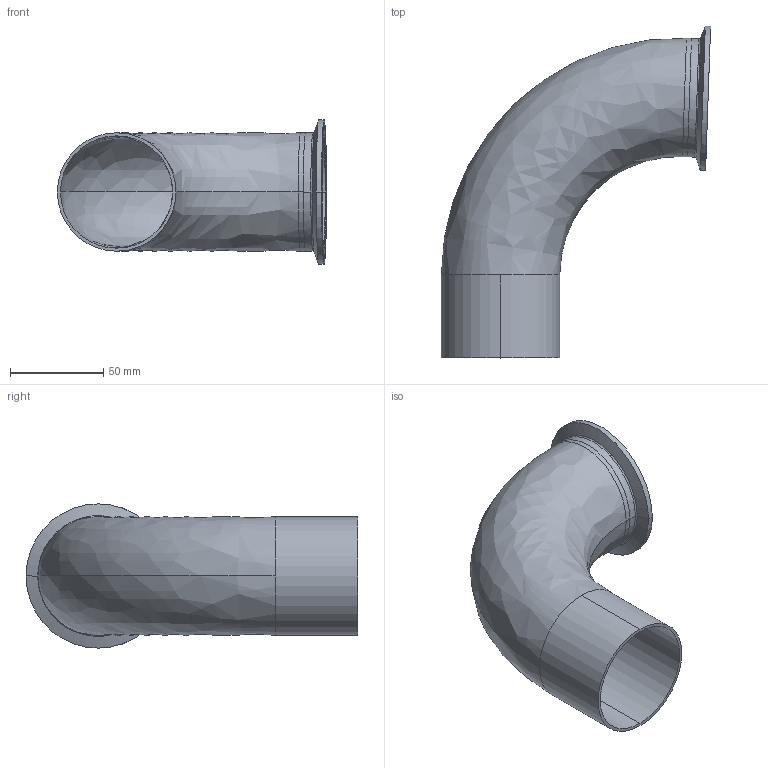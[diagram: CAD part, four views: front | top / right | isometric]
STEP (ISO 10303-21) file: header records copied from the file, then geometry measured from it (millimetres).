
FILE_DESCRIPTION (( 'STEP AP214' ), '1' );
FILE_NAME ('TE2C926L2.5-...STEP', '2016-05-22T11:06:58', ( 'eran' ), ( '' ), 'SwSTEP 2.0', 'SolidWorks 2016', '' );
FILE_SCHEMA (( 'AUTOMOTIVE_DESIGN' ));
Length unit declared in the file: millimetre
Products named in the file (1): TE2C926L2.5-..
Bounding box: 144.35 x 177.96 x 77.39 mm (x, y, z)
Volume: 73323.6 mm3; surface area: 85769.9 mm2
Topology: 2 solids, 2 shells, 39 faces, 96 edges, 62 vertices
Faces by surface type: bspline 14, cylinder 14, cone 6, plane 5
Entity records: 1841 total; most frequent: CARTESIAN_POINT 866, DIRECTION 212, ORIENTED_EDGE 192, EDGE_CURVE 96, AXIS2_PLACEMENT_3D 96, CIRCLE 70, VERTEX_POINT 62, EDGE_LOOP 44
